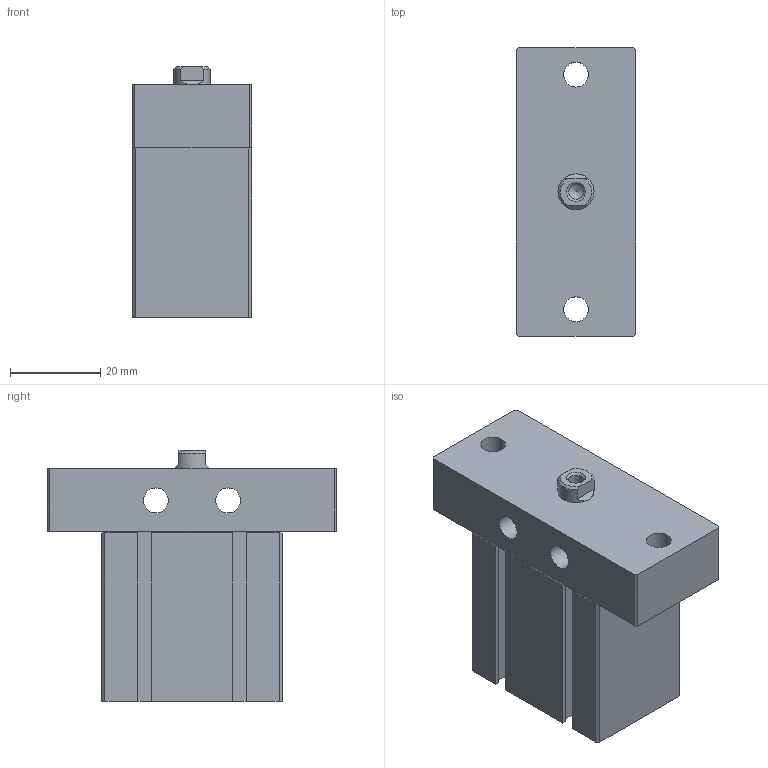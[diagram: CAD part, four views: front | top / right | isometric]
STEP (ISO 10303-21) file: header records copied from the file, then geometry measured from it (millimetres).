
FILE_DESCRIPTION((''),'2;1');
FILE_NAME('J:\3D電子目錄\氣缸\ND\ND\ND-F\ND20x10-F.stp','2008-03-12T14:02:29',('66-2f-008'),(''),'Autodesk Inventor 11','Autodesk Inventor 11','');
FILE_SCHEMA(('AUTOMOTIVE_DESIGN { 1 0 10303 214 1 1 1 1 }'));
Length unit declared in the file: millimetre
Products named in the file (1): ND20-F
Bounding box: 26.4 x 64 x 55.5 mm (x, y, z)
Volume: 56186.1 mm3; surface area: 15360.8 mm2
Topology: 2 solids, 2 shells, 112 faces, 300 edges, 193 vertices
Faces by surface type: plane 75, bspline 16, cylinder 12, cone 8, torus 1
Full cylindrical faces by diameter (mm): 1.5 x2, 5.5 x2, 13 x1, 21 x1
Entity records: 3478 total; most frequent: CARTESIAN_POINT 793, ORIENTED_EDGE 538, DIRECTION 514, EDGE_CURVE 269, VECTOR 210, LINE 210, VERTEX_POINT 187, EDGE_LOOP 154
